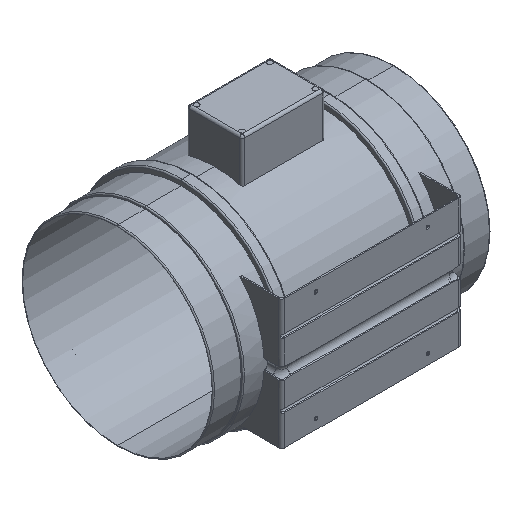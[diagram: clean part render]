
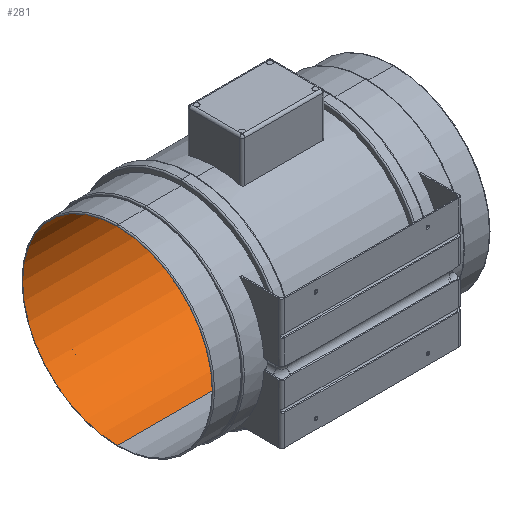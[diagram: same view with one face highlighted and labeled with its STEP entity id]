
A CAD part, isometric view. The second image highlights one B-rep face of the part: STEP entity #281.
In plain terms, the highlighted cylindrical face has radius 154 mm (diameter 308 mm), a partial arc.
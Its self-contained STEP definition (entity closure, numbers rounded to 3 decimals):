
#281=ADVANCED_FACE('',(#719,#720),#721,.F.);
#719=FACE_BOUND('',#1337,.T.);
#720=FACE_OUTER_BOUND('',#1338,.T.);
#721=CYLINDRICAL_SURFACE('',#1339,154.0);
#1337=EDGE_LOOP('',(#2120,#2121,#2122));
#1338=EDGE_LOOP('',(#2123,#2124,#2125,#2126));
#1339=AXIS2_PLACEMENT_3D('',#2127,#2128,#2129);
#2120=ORIENTED_EDGE('',*,*,#3863,.T.);
#2121=ORIENTED_EDGE('',*,*,#3864,.T.);
#2122=ORIENTED_EDGE('',*,*,#3865,.T.);
#2123=ORIENTED_EDGE('',*,*,#3866,.F.);
#2124=ORIENTED_EDGE('',*,*,#3867,.F.);
#2125=ORIENTED_EDGE('',*,*,#3868,.F.);
#2126=ORIENTED_EDGE('',*,*,#3869,.F.);
#2127=CARTESIAN_POINT('',(0.0,0.0,0.0));
#2128=DIRECTION('',(1.0,0.0,0.0));
#2129=DIRECTION('',(0.0,0.0,-1.0));
#3863=EDGE_CURVE('',#4708,#4709,#4710,.T.);
#3864=EDGE_CURVE('',#4709,#4711,#4712,.T.);
#3865=EDGE_CURVE('',#4711,#4708,#4713,.T.);
#3866=EDGE_CURVE('',#4714,#4715,#4716,.T.);
#3867=EDGE_CURVE('',#4717,#4714,#4718,.T.);
#3868=EDGE_CURVE('',#4719,#4717,#4720,.T.);
#3869=EDGE_CURVE('',#4715,#4719,#4721,.T.);
#4708=VERTEX_POINT('',#6140);
#4709=VERTEX_POINT('',#6141);
#4710=B_SPLINE_CURVE_WITH_KNOTS('',3,(#6142,#6143,#6144,#6145,#6146,#6147,#6148,#6149,#6150,#6151,#6152,#6153),.UNSPECIFIED.,.F.,.F.,(4,2,2,2,2,4),(0.0,0.,0.,0.001,0.001,0.001),.UNSPECIFIED.);
#4711=VERTEX_POINT('',#6154);
#4712=B_SPLINE_CURVE_WITH_KNOTS('',3,(#6155,#6156,#6157,#6158,#6159,#6160,#6161,#6162,#6163,#6164,#6165,#6166,#6167,#6168,#6169,#6170,#6171,#6172,#6173,#6174,#6175,#6176),.UNSPECIFIED.,.F.,.F.,(4,2,2,2,2,2,2,2,2,2,4),(0.001,0.002,0.002,0.003,0.003,0.003,0.003,0.003,0.004,0.004,0.004),.UNSPECIFIED.);
#4713=B_SPLINE_CURVE_WITH_KNOTS('',3,(#6177,#6178,#6179,#6180,#6181,#6182,#6183,#6184,#6185,#6186,#6187,#6188),.UNSPECIFIED.,.F.,.F.,(4,2,2,2,2,4),(0.004,0.005,0.005,0.006,0.006,0.006),.UNSPECIFIED.);
#4714=VERTEX_POINT('',#6189);
#4715=VERTEX_POINT('',#6190);
#4716=LINE('',#6191,#6192);
#4717=VERTEX_POINT('',#6193);
#4718=CIRCLE('',#6194,154.0);
#4719=VERTEX_POINT('',#6195);
#4720=LINE('',#6196,#6197);
#4721=CIRCLE('',#6198,154.0);
#6140=CARTESIAN_POINT('',(100.751,154.,-0.001));
#6141=CARTESIAN_POINT('',(100.75,154.0,0.));
#6142=CARTESIAN_POINT('',(100.751,154.,-0.001));
#6143=CARTESIAN_POINT('',(100.751,154.,-0.001));
#6144=CARTESIAN_POINT('',(100.751,154.,-0.001));
#6145=CARTESIAN_POINT('',(100.751,154.,-0.001));
#6146=CARTESIAN_POINT('',(100.751,154.,-0.001));
#6147=CARTESIAN_POINT('',(100.751,154.,-0.001));
#6148=CARTESIAN_POINT('',(100.75,154.,-0.001));
#6149=CARTESIAN_POINT('',(100.75,154.,-0.001));
#6150=CARTESIAN_POINT('',(100.75,154.,-0.001));
#6151=CARTESIAN_POINT('',(100.75,154.,0.));
#6152=CARTESIAN_POINT('',(100.75,154.0,0.));
#6153=CARTESIAN_POINT('',(100.75,154.0,0.));
#6154=CARTESIAN_POINT('',(100.752,154.0,0.));
#6155=CARTESIAN_POINT('',(100.75,154.0,0.));
#6156=CARTESIAN_POINT('',(100.75,154.0,0.));
#6157=CARTESIAN_POINT('',(100.75,154.,0.));
#6158=CARTESIAN_POINT('',(100.75,154.,0.001));
#6159=CARTESIAN_POINT('',(100.75,154.,0.001));
#6160=CARTESIAN_POINT('',(100.75,154.,0.001));
#6161=CARTESIAN_POINT('',(100.751,154.,0.001));
#6162=CARTESIAN_POINT('',(100.751,154.,0.001));
#6163=CARTESIAN_POINT('',(100.751,154.,0.001));
#6164=CARTESIAN_POINT('',(100.751,154.,0.001));
#6165=CARTESIAN_POINT('',(100.751,154.,0.001));
#6166=CARTESIAN_POINT('',(100.751,154.,0.001));
#6167=CARTESIAN_POINT('',(100.751,154.,0.001));
#6168=CARTESIAN_POINT('',(100.751,154.,0.001));
#6169=CARTESIAN_POINT('',(100.751,154.,0.001));
#6170=CARTESIAN_POINT('',(100.751,154.,0.001));
#6171=CARTESIAN_POINT('',(100.752,154.,0.001));
#6172=CARTESIAN_POINT('',(100.752,154.,0.001));
#6173=CARTESIAN_POINT('',(100.752,154.,0.));
#6174=CARTESIAN_POINT('',(100.752,154.,0.));
#6175=CARTESIAN_POINT('',(100.752,154.0,0.));
#6176=CARTESIAN_POINT('',(100.752,154.0,0.));
#6177=CARTESIAN_POINT('',(100.752,154.0,0.));
#6178=CARTESIAN_POINT('',(100.752,154.0,0.));
#6179=CARTESIAN_POINT('',(100.752,154.,0.));
#6180=CARTESIAN_POINT('',(100.752,154.,0.));
#6181=CARTESIAN_POINT('',(100.752,154.,-0.001));
#6182=CARTESIAN_POINT('',(100.752,154.,-0.001));
#6183=CARTESIAN_POINT('',(100.751,154.,-0.001));
#6184=CARTESIAN_POINT('',(100.751,154.,-0.001));
#6185=CARTESIAN_POINT('',(100.751,154.,-0.001));
#6186=CARTESIAN_POINT('',(100.751,154.,-0.001));
#6187=CARTESIAN_POINT('',(100.751,154.,-0.001));
#6188=CARTESIAN_POINT('',(100.751,154.,-0.001));
#6189=CARTESIAN_POINT('',(225.0,0.,-154.0));
#6190=CARTESIAN_POINT('',(-225.0,0.,-154.0));
#6191=CARTESIAN_POINT('',(0.0,0.,-154.0));
#6192=VECTOR('',#10519,1.0);
#6193=CARTESIAN_POINT('',(225.0,0.,154.0));
#6194=AXIS2_PLACEMENT_3D('',#10520,#10521,#10522);
#6195=CARTESIAN_POINT('',(-225.0,0.,154.0));
#6196=CARTESIAN_POINT('',(0.0,0.,154.0));
#6197=VECTOR('',#10523,1.0);
#6198=AXIS2_PLACEMENT_3D('',#10524,#10525,#10526);
#10519=DIRECTION('',(-1.0,0.0,0.0));
#10520=CARTESIAN_POINT('',(225.0,0.0,0.0));
#10521=DIRECTION('',(-1.0,-0.0,-0.0));
#10522=DIRECTION('',(0.0,0.0,-1.0));
#10523=DIRECTION('',(1.0,0.0,0.0));
#10524=CARTESIAN_POINT('',(-225.0,0.0,0.0));
#10525=DIRECTION('',(1.0,0.0,0.0));
#10526=DIRECTION('',(0.0,0.0,-1.0));
